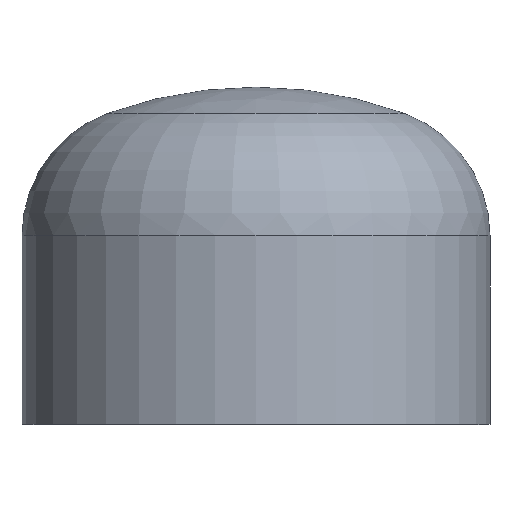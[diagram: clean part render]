
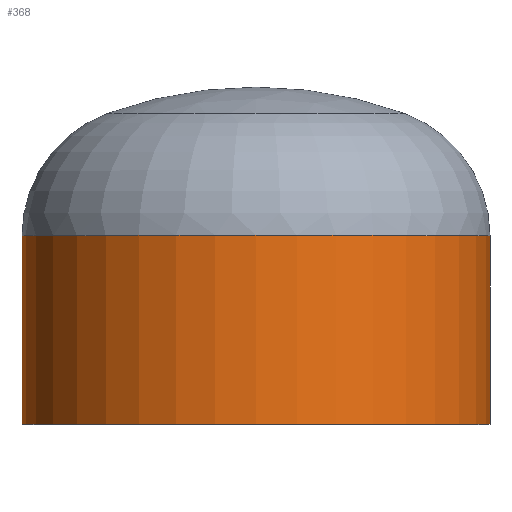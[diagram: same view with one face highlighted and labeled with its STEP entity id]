
A CAD part, top view. The second image highlights one B-rep face of the part: STEP entity #368.
In plain terms, the highlighted cylindrical face has radius 136.5 mm (diameter 273 mm), a partial arc.
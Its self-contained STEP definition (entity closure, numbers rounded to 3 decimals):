
#36 = CIRCLE ( 'NONE', #54, 136.5 ) ;
#54 = AXIS2_PLACEMENT_3D ( 'NONE', #345, #343, #341 ) ;
#55 = AXIS2_PLACEMENT_3D ( 'NONE', #219, #232, #230 ) ;
#57 = EDGE_CURVE ( 'NONE', #112, #240, #61, .T. ) ;
#59 = EDGE_CURVE ( 'NONE', #112, #87, #173, .T. ) ;
#61 = CIRCLE ( 'NONE', #55, 136.5 ) ;
#64 = EDGE_CURVE ( 'NONE', #87, #127, #36, .T. ) ;
#77 = EDGE_LOOP ( 'NONE', ( #138, #380, #155, #111 ) ) ;
#85 = DIRECTION ( 'NONE',  ( 0., -1., 0. ) ) ;
#87 = VERTEX_POINT ( 'NONE', #317 ) ;
#99 = CARTESIAN_POINT ( 'NONE',  ( 0., 0., 0. ) ) ;
#111 = ORIENTED_EDGE ( 'NONE', *, *, #59, .F. ) ;
#112 = VERTEX_POINT ( 'NONE', #322 ) ;
#127 = VERTEX_POINT ( 'NONE', #295 ) ;
#138 = ORIENTED_EDGE ( 'NONE', *, *, #57, .T. ) ;
#155 = ORIENTED_EDGE ( 'NONE', *, *, #64, .F. ) ;
#161 = VECTOR ( 'NONE', #247, 1000. ) ;
#167 = LINE ( 'NONE', #177, #234 ) ;
#173 = LINE ( 'NONE', #220, #161 ) ;
#175 = DIRECTION ( 'NONE',  ( 0., -1., 0. ) ) ;
#177 = CARTESIAN_POINT ( 'NONE',  ( -136.5, 0., 0. ) ) ;
#199 = CARTESIAN_POINT ( 'NONE',  ( -136.5, 110., 0. ) ) ;
#219 = CARTESIAN_POINT ( 'NONE',  ( 0., 110., 0. ) ) ;
#220 = CARTESIAN_POINT ( 'NONE',  ( 136.5, 0., 0. ) ) ;
#230 = DIRECTION ( 'NONE',  ( 1., 0., 0. ) ) ;
#232 = DIRECTION ( 'NONE',  ( 0., -1., 0. ) ) ;
#234 = VECTOR ( 'NONE', #175, 1000. ) ;
#240 = VERTEX_POINT ( 'NONE', #199 ) ;
#243 = AXIS2_PLACEMENT_3D ( 'NONE', #99, #85, #328 ) ;
#247 = DIRECTION ( 'NONE',  ( 0., -1., 0. ) ) ;
#294 = CYLINDRICAL_SURFACE ( 'NONE', #243, 136.5 ) ;
#295 = CARTESIAN_POINT ( 'NONE',  ( -136.5, 0., 0. ) ) ;
#306 = FACE_OUTER_BOUND ( 'NONE', #77, .T. ) ;
#317 = CARTESIAN_POINT ( 'NONE',  ( 136.5, 0., 0. ) ) ;
#322 = CARTESIAN_POINT ( 'NONE',  ( 136.5, 110., 0. ) ) ;
#328 = DIRECTION ( 'NONE',  ( 1., 0., 0. ) ) ;
#341 = DIRECTION ( 'NONE',  ( 1., 0., 0. ) ) ;
#343 = DIRECTION ( 'NONE',  ( 0., -1., 0. ) ) ;
#345 = CARTESIAN_POINT ( 'NONE',  ( 0., 0., 0. ) ) ;
#368 = ADVANCED_FACE ( 'NONE', ( #306 ), #294, .T. ) ;
#375 = EDGE_CURVE ( 'NONE', #240, #127, #167, .T. ) ;
#380 = ORIENTED_EDGE ( 'NONE', *, *, #375, .T. ) ;
